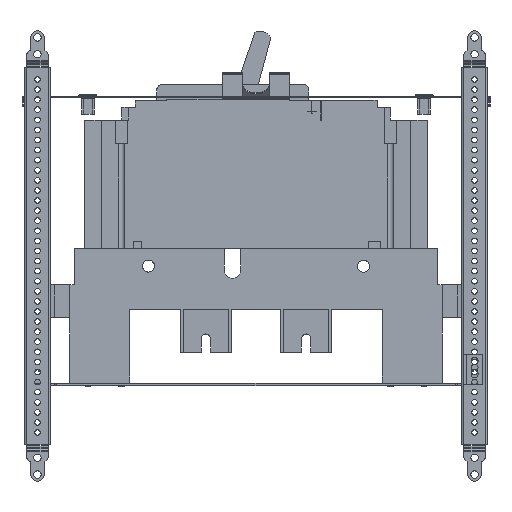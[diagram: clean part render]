
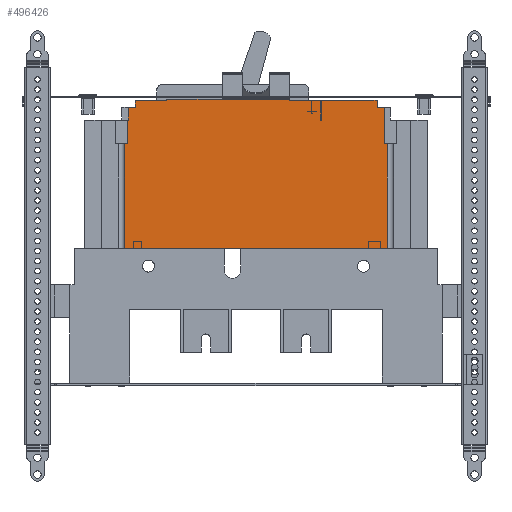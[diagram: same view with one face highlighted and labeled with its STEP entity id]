
A CAD part, left-side view. The second image highlights one B-rep face of the part: STEP entity #496426.
In plain terms, the highlighted planar face has unit normal (-1, 0, 0).
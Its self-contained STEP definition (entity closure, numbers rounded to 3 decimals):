
#494251=CARTESIAN_POINT(' ',(-284.311,-45.217,144.353));
#494256=DIRECTION(' ',(0.,1.,0.));
#494261=VECTOR(' ',#494256,1.);
#494266=LINE('',#494251,#494261);
#494271=CARTESIAN_POINT(' ',(-284.311,-45.217,144.353));
#494272=VERTEX_POINT(' ',#494271);
#494276=CARTESIAN_POINT(' ',(-284.311,-21.717,144.353));
#494277=VERTEX_POINT(' ',#494276);
#494281=EDGE_CURVE(' ',#494272,#494277,#494266,.T.);
#494821=CARTESIAN_POINT(' ',(-284.311,69.283,144.353));
#494822=VERTEX_POINT(' ',#494821);
#494966=CARTESIAN_POINT(' ',(-284.311,92.783,144.353));
#494967=VERTEX_POINT(' ',#494966);
#494981=CARTESIAN_POINT(' ',(-284.311,69.283,144.353));
#494986=DIRECTION(' ',(0.,1.,0.));
#494991=VECTOR(' ',#494986,1.);
#494996=LINE('',#494981,#494991);
#495001=EDGE_CURVE(' ',#494822,#494967,#494996,.T.);
#495176=CARTESIAN_POINT(' ',(-284.311,69.283,145.353));
#495181=DIRECTION(' ',(0.,0.,-1.));
#495186=VECTOR(' ',#495181,1.);
#495191=LINE('',#495176,#495186);
#495196=CARTESIAN_POINT(' ',(-284.311,69.283,145.353));
#495197=VERTEX_POINT(' ',#495196);
#495201=EDGE_CURVE(' ',#495197,#494822,#495191,.T.);
#495286=CARTESIAN_POINT(' ',(-284.311,69.283,145.353));
#495291=DIRECTION(' ',(0.,-1.,0.));
#495296=VECTOR(' ',#495291,1.);
#495301=LINE('',#495286,#495296);
#495306=CARTESIAN_POINT(' ',(-284.311,-21.717,145.353));
#495307=VERTEX_POINT(' ',#495306);
#495311=EDGE_CURVE(' ',#495197,#495307,#495301,.T.);
#495411=CARTESIAN_POINT(' ',(-284.311,-21.717,145.353));
#495416=DIRECTION(' ',(0.,0.,-1.));
#495421=VECTOR(' ',#495416,1.);
#495426=LINE('',#495411,#495421);
#495431=EDGE_CURVE(' ',#495307,#494277,#495426,.T.);
#495776=DIRECTION(' ',(-1.,0.,0.));
#495781=CARTESIAN_POINT(' ',(-284.311,-94.422,34.353));
#495786=DIRECTION(' ',(0.,-0.,1.));
#495791=AXIS2_PLACEMENT_3D(' ',#495781,#495776,#495786);
#495796=PLANE('NONE',#495791);
#495801=CARTESIAN_POINT(' ',(-284.311,-94.422,112.353));
#495806=DIRECTION(' ',(0.,1.,0.));
#495811=VECTOR(' ',#495806,1.);
#495816=LINE('',#495801,#495811);
#495821=CARTESIAN_POINT(' ',(-284.311,-94.422,112.353));
#495822=VERTEX_POINT(' ',#495821);
#495826=CARTESIAN_POINT(' ',(-284.311,-92.467,112.353));
#495827=VERTEX_POINT(' ',#495826);
#495831=EDGE_CURVE(' ',#495822,#495827,#495816,.T.);
#495836=ORIENTED_EDGE(' ',*,*,#495831,.T.);
#495841=CARTESIAN_POINT(' ',(-284.311,-92.467,139.353));
#495846=DIRECTION(' ',(0.,0.,-1.));
#495851=VECTOR(' ',#495846,1.);
#495856=LINE('',#495841,#495851);
#495861=CARTESIAN_POINT(' ',(-284.311,-92.467,139.353));
#495862=VERTEX_POINT(' ',#495861);
#495866=EDGE_CURVE(' ',#495862,#495827,#495856,.T.);
#495871=ORIENTED_EDGE(' ',*,*,#495866,.F.);
#495876=CARTESIAN_POINT(' ',(-284.311,-86.967,139.353));
#495881=DIRECTION(' ',(0.,-1.,0.));
#495886=VECTOR(' ',#495881,1.);
#495891=LINE('',#495876,#495886);
#495896=CARTESIAN_POINT(' ',(-284.311,-86.967,139.353));
#495897=VERTEX_POINT(' ',#495896);
#495901=EDGE_CURVE(' ',#495897,#495862,#495891,.T.);
#495906=ORIENTED_EDGE(' ',*,*,#495901,.F.);
#495911=CARTESIAN_POINT(' ',(-284.311,-86.967,144.753));
#495916=DIRECTION(' ',(0.,0.,-1.));
#495921=VECTOR(' ',#495916,1.);
#495926=LINE('',#495911,#495921);
#495931=CARTESIAN_POINT(' ',(-284.311,-86.967,144.753));
#495932=VERTEX_POINT(' ',#495931);
#495936=EDGE_CURVE(' ',#495932,#495897,#495926,.T.);
#495941=ORIENTED_EDGE(' ',*,*,#495936,.F.);
#495946=CARTESIAN_POINT(' ',(-284.311,-45.467,144.753));
#495951=DIRECTION(' ',(0.,-1.,0.));
#495956=VECTOR(' ',#495951,1.);
#495961=LINE('',#495946,#495956);
#495966=CARTESIAN_POINT(' ',(-284.311,-45.467,144.753));
#495967=VERTEX_POINT(' ',#495966);
#495971=EDGE_CURVE(' ',#495967,#495932,#495961,.T.);
#495976=ORIENTED_EDGE(' ',*,*,#495971,.F.);
#495981=CARTESIAN_POINT(' ',(-284.311,-45.467,129.853));
#495986=DIRECTION(' ',(0.,0.,1.));
#495991=VECTOR(' ',#495986,1.);
#495996=LINE('',#495981,#495991);
#496001=CARTESIAN_POINT(' ',(-284.311,-45.467,129.853));
#496002=VERTEX_POINT(' ',#496001);
#496006=EDGE_CURVE(' ',#496002,#495967,#495996,.T.);
#496011=ORIENTED_EDGE(' ',*,*,#496006,.F.);
#496016=CARTESIAN_POINT(' ',(-284.311,-45.217,129.853));
#496021=DIRECTION(' ',(0.,-1.,0.));
#496026=VECTOR(' ',#496021,1.);
#496031=LINE('',#496016,#496026);
#496036=CARTESIAN_POINT(' ',(-284.311,-45.217,129.853));
#496037=VERTEX_POINT(' ',#496036);
#496041=EDGE_CURVE(' ',#496037,#496002,#496031,.T.);
#496046=ORIENTED_EDGE(' ',*,*,#496041,.F.);
#496051=CARTESIAN_POINT(' ',(-284.311,-45.217,129.853));
#496056=DIRECTION(' ',(0.,0.,1.));
#496061=VECTOR(' ',#496056,1.);
#496066=LINE('',#496051,#496061);
#496071=EDGE_CURVE(' ',#496037,#494272,#496066,.T.);
#496076=ORIENTED_EDGE(' ',*,*,#496071,.T.);
#496081=ORIENTED_EDGE(' ',*,*,#494281,.T.);
#496086=ORIENTED_EDGE(' ',*,*,#495431,.F.);
#496091=ORIENTED_EDGE(' ',*,*,#495311,.F.);
#496096=ORIENTED_EDGE(' ',*,*,#495201,.T.);
#496101=ORIENTED_EDGE(' ',*,*,#495001,.T.);
#496106=CARTESIAN_POINT(' ',(-284.311,92.783,144.353));
#496111=DIRECTION(' ',(0.,0.,-1.));
#496116=VECTOR(' ',#496111,1.);
#496121=LINE('',#496106,#496116);
#496126=CARTESIAN_POINT(' ',(-284.311,92.783,139.353));
#496127=VERTEX_POINT(' ',#496126);
#496131=EDGE_CURVE(' ',#494967,#496127,#496121,.T.);
#496136=ORIENTED_EDGE(' ',*,*,#496131,.T.);
#496141=CARTESIAN_POINT(' ',(-284.311,92.783,139.353));
#496146=DIRECTION(' ',(0.,1.,0.));
#496151=VECTOR(' ',#496146,1.);
#496156=LINE('',#496141,#496151);
#496161=CARTESIAN_POINT(' ',(-284.311,98.033,139.353));
#496162=VERTEX_POINT(' ',#496161);
#496166=EDGE_CURVE(' ',#496127,#496162,#496156,.T.);
#496171=ORIENTED_EDGE(' ',*,*,#496166,.T.);
#496176=CARTESIAN_POINT(' ',(-284.311,98.033,139.353));
#496181=DIRECTION(' ',(0.,0.,-1.));
#496186=VECTOR(' ',#496181,1.);
#496191=LINE('',#496176,#496186);
#496196=CARTESIAN_POINT(' ',(-284.311,98.033,129.853));
#496197=VERTEX_POINT(' ',#496196);
#496201=EDGE_CURVE(' ',#496162,#496197,#496191,.T.);
#496206=ORIENTED_EDGE(' ',*,*,#496201,.T.);
#496211=CARTESIAN_POINT(' ',(-284.311,98.533,129.853));
#496216=DIRECTION(' ',(0.,-1.,0.));
#496221=VECTOR(' ',#496216,1.);
#496226=LINE('',#496211,#496221);
#496231=CARTESIAN_POINT(' ',(-284.311,98.533,129.853));
#496232=VERTEX_POINT(' ',#496231);
#496236=EDGE_CURVE(' ',#496232,#496197,#496226,.T.);
#496241=ORIENTED_EDGE(' ',*,*,#496236,.F.);
#496246=CARTESIAN_POINT(' ',(-284.311,98.533,129.853));
#496251=DIRECTION(' ',(0.,0.,-1.));
#496256=VECTOR(' ',#496251,1.);
#496261=LINE('',#496246,#496256);
#496266=CARTESIAN_POINT(' ',(-284.311,98.533,112.353));
#496267=VERTEX_POINT(' ',#496266);
#496271=EDGE_CURVE(' ',#496232,#496267,#496261,.T.);
#496276=ORIENTED_EDGE(' ',*,*,#496271,.T.);
#496281=CARTESIAN_POINT(' ',(-284.311,100.487,112.353));
#496286=DIRECTION(' ',(0.,-1.,0.));
#496291=VECTOR(' ',#496286,1.);
#496296=LINE('',#496281,#496291);
#496301=CARTESIAN_POINT(' ',(-284.311,100.487,112.353));
#496302=VERTEX_POINT(' ',#496301);
#496306=EDGE_CURVE(' ',#496302,#496267,#496296,.T.);
#496311=ORIENTED_EDGE(' ',*,*,#496306,.F.);
#496316=CARTESIAN_POINT(' ',(-284.311,100.487,112.353));
#496321=DIRECTION(' ',(0.,0.,-1.));
#496326=VECTOR(' ',#496321,1.);
#496331=LINE('',#496316,#496326);
#496336=CARTESIAN_POINT(' ',(-284.311,100.487,34.353));
#496337=VERTEX_POINT(' ',#496336);
#496341=EDGE_CURVE(' ',#496302,#496337,#496331,.T.);
#496346=ORIENTED_EDGE(' ',*,*,#496341,.T.);
#496351=CARTESIAN_POINT(' ',(-284.311,-94.422,34.353));
#496356=DIRECTION(' ',(0.,1.,0.));
#496361=VECTOR(' ',#496356,1.);
#496366=LINE('',#496351,#496361);
#496371=CARTESIAN_POINT(' ',(-284.311,-94.422,34.353));
#496372=VERTEX_POINT(' ',#496371);
#496376=EDGE_CURVE(' ',#496372,#496337,#496366,.T.);
#496381=ORIENTED_EDGE(' ',*,*,#496376,.F.);
#496386=CARTESIAN_POINT(' ',(-284.311,-94.422,34.353));
#496391=DIRECTION(' ',(0.,0.,1.));
#496396=VECTOR(' ',#496391,1.);
#496401=LINE('',#496386,#496396);
#496406=EDGE_CURVE(' ',#496372,#495822,#496401,.T.);
#496411=ORIENTED_EDGE(' ',*,*,#496406,.T.);
#496416=EDGE_LOOP(' ',(#495836,#495871,#495906,#495941,#495976,#496011,#496046,#496076,#496081,#496086,#496091,#496096,#496101,#496136,#496171,#496206,#496241,#496276,#496311,#496346,#496381,#496411));
#496421=FACE_OUTER_BOUND(' ',#496416,.T.);
#496426=ADVANCED_FACE('NONE',(#496421),#495796,.T.);
